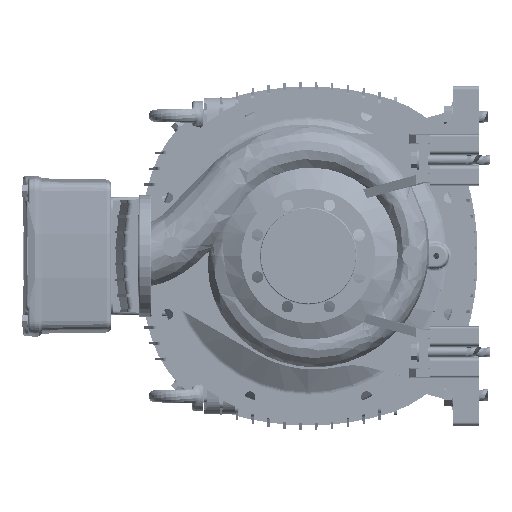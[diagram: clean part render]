
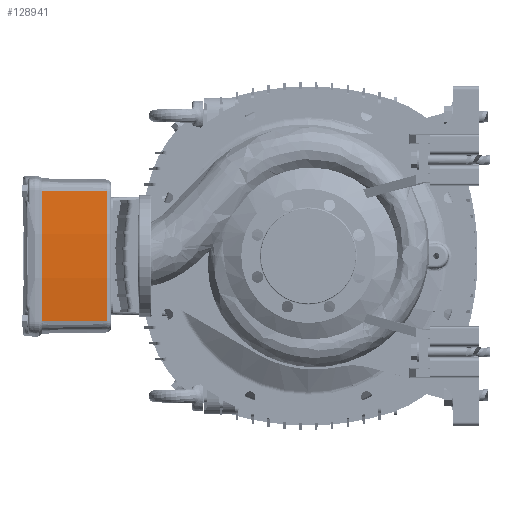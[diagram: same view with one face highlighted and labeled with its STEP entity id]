
A CAD part, left-side view. The second image highlights one B-rep face of the part: STEP entity #128941.
In plain terms, the highlighted conical face has half-angle 1 degrees and reference radius 1049 mm.
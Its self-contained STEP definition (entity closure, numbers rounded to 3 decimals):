
#5012 = DIRECTION ( 'NONE',  ( -1., 0., 0. ) ) ;
#6575 = CIRCLE ( 'NONE', #85654, 1048.816 ) ;
#12518 = CARTESIAN_POINT ( 'NONE',  ( 107.19, 330.86, 144.954 ) ) ;
#16183 = DIRECTION ( 'NONE',  ( 0., 1., 0. ) ) ;
#19496 = DIRECTION ( 'NONE',  ( 0.002, -1., -0.017 ) ) ;
#31302 = ORIENTED_EDGE ( 'NONE', *, *, #104388, .F. ) ;
#45215 = EDGE_LOOP ( 'NONE', ( #55142, #82182, #133717, #31302 ) ) ;
#49623 = CARTESIAN_POINT ( 'NONE',  ( 0., 448., -896.5 ) ) ;
#50228 = CARTESIAN_POINT ( 'NONE',  ( -107.381, 437.446, 146.804 ) ) ;
#51323 = CONICAL_SURFACE ( 'NONE', #112586, 1049., 0.017 ) ;
#53270 = VERTEX_POINT ( 'NONE', #129752 ) ;
#55142 = ORIENTED_EDGE ( 'NONE', *, *, #64176, .T. ) ;
#64176 = EDGE_CURVE ( 'NONE', #108327, #53270, #129702, .T. ) ;
#68413 = VECTOR ( 'NONE', #101051, 1000. ) ;
#73277 = CARTESIAN_POINT ( 'NONE',  ( 0., 437.446, -896.5 ) ) ;
#77843 = CARTESIAN_POINT ( 'NONE',  ( 107.4, 448., 146.988 ) ) ;
#78352 = EDGE_CURVE ( 'NONE', #105410, #85663, #125804, .T. ) ;
#79209 = CARTESIAN_POINT ( 'NONE',  ( 0., 330.86, -896.5 ) ) ;
#82182 = ORIENTED_EDGE ( 'NONE', *, *, #130409, .T. ) ;
#85654 = AXIS2_PLACEMENT_3D ( 'NONE', #73277, #121250, #133993 ) ;
#85663 = VERTEX_POINT ( 'NONE', #12518 ) ;
#99149 = FACE_OUTER_BOUND ( 'NONE', #45215, .T. ) ;
#101051 = DIRECTION ( 'NONE',  ( -0.002, -1., -0.017 ) ) ;
#104388 = EDGE_CURVE ( 'NONE', #108327, #105410, #6575, .T. ) ;
#105410 = VERTEX_POINT ( 'NONE', #153041 ) ;
#108005 = DIRECTION ( 'NONE',  ( 1., 0., 0. ) ) ;
#108327 = VERTEX_POINT ( 'NONE', #50228 ) ;
#112586 = AXIS2_PLACEMENT_3D ( 'NONE', #49623, #157454, #108005 ) ;
#120435 = AXIS2_PLACEMENT_3D ( 'NONE', #79209, #16183, #5012 ) ;
#121250 = DIRECTION ( 'NONE',  ( 0., 1., 0. ) ) ;
#125804 = LINE ( 'NONE', #77843, #68413 ) ;
#128071 = CIRCLE ( 'NONE', #120435, 1046.955 ) ;
#128917 = CARTESIAN_POINT ( 'NONE',  ( -107.4, 448., 146.988 ) ) ;
#128941 = ADVANCED_FACE ( 'NONE', ( #99149 ), #51323, .T. ) ;
#129702 = LINE ( 'NONE', #128917, #147567 ) ;
#129752 = CARTESIAN_POINT ( 'NONE',  ( -107.19, 330.86, 144.954 ) ) ;
#130409 = EDGE_CURVE ( 'NONE', #53270, #85663, #128071, .T. ) ;
#133717 = ORIENTED_EDGE ( 'NONE', *, *, #78352, .F. ) ;
#133993 = DIRECTION ( 'NONE',  ( -1., 0., 0. ) ) ;
#147567 = VECTOR ( 'NONE', #19496, 1000. ) ;
#153041 = CARTESIAN_POINT ( 'NONE',  ( 107.381, 437.446, 146.804 ) ) ;
#157454 = DIRECTION ( 'NONE',  ( 0., 1., 0. ) ) ;
